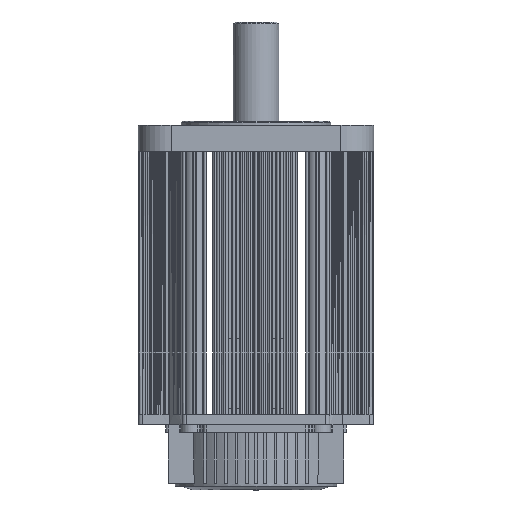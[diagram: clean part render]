
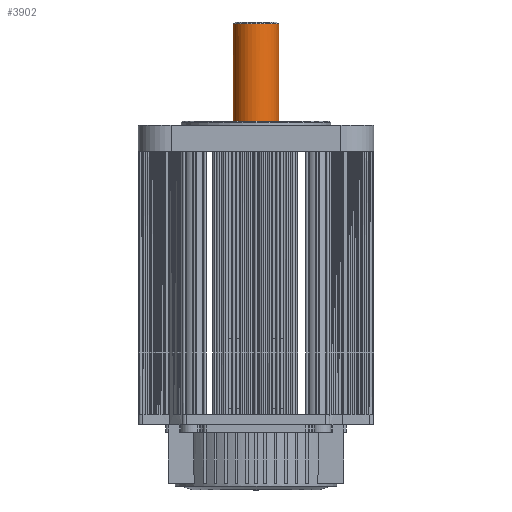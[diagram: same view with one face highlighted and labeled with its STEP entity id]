
A CAD part, front view. The second image highlights one B-rep face of the part: STEP entity #3902.
In plain terms, the highlighted cylindrical face has radius 17.5 mm (diameter 35 mm), a partial arc.
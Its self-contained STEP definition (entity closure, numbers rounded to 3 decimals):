
#700 = B_SPLINE_CURVE_WITH_KNOTS ( 'NONE', 3,
 ( #6227, #3755, #12391, #38685, #28085, #15554, #735, #9921, #9240, #29031, #32071, #22703, #25747, #35261, #31939, #3879, #7051, #13203 ),
 .UNSPECIFIED., .F., .F.,
 ( 4, 2, 2, 2, 2, 2, 2, 2, 4 ),
 ( 0.5, 0.563, 0.625, 0.688, 0.75, 0.813, 0.875, 0.938, 1. ),
 .UNSPECIFIED. ) ;
#735 = CARTESIAN_POINT ( 'NONE',  ( 15.187, -8.77, 23.2 ) ) ;
#1235 = CARTESIAN_POINT ( 'NONE',  ( 0., 0., 97.5 ) ) ;
#1984 = CARTESIAN_POINT ( 'NONE',  ( -4.537, -16.94, 23.2 ) ) ;
#2063 = VERTEX_POINT ( 'NONE', #2098 ) ;
#2098 = CARTESIAN_POINT ( 'NONE',  ( 17.5, 0., 23.2 ) ) ;
#2670 = CARTESIAN_POINT ( 'NONE',  ( -13.914, -10.675, 23.2 ) ) ;
#3436 = CARTESIAN_POINT ( 'NONE',  ( 17.5, 0., 97.5 ) ) ;
#3497 = VERTEX_POINT ( 'NONE', #14222 ) ;
#3755 = CARTESIAN_POINT ( 'NONE',  ( 17.5, -1.145, 23.2 ) ) ;
#3879 = CARTESIAN_POINT ( 'NONE',  ( 2.291, -17.387, 23.2 ) ) ;
#3902 = ADVANCED_FACE ( 'NONE', ( #29463 ), #38367, .F. ) ;
#3976 = VERTEX_POINT ( 'NONE', #30579 ) ;
#4383 = DIRECTION ( 'NONE',  ( 0., 0., 1. ) ) ;
#4723 = CARTESIAN_POINT ( 'NONE',  ( -17.5, 0., 23.2 ) ) ;
#5792 = LINE ( 'NONE', #11248, #13151 ) ;
#6090 = CARTESIAN_POINT ( 'NONE',  ( -16.94, -4.537, 23.2 ) ) ;
#6227 = CARTESIAN_POINT ( 'NONE',  ( 17.5, 0., 23.2 ) ) ;
#6554 = ORIENTED_EDGE ( 'NONE', *, *, #19488, .T. ) ;
#7051 = CARTESIAN_POINT ( 'NONE',  ( 1.145, -17.5, 23.2 ) ) ;
#7545 = EDGE_CURVE ( 'NONE', #3976, #36218, #5792, .T. ) ;
#8000 = CIRCLE ( 'NONE', #31345, 17.5 ) ;
#8440 = CARTESIAN_POINT ( 'NONE',  ( -5.639, -16.606, 23.2 ) ) ;
#8579 = CARTESIAN_POINT ( 'NONE',  ( -1.145, -17.5, 23.2 ) ) ;
#8718 = CARTESIAN_POINT ( 'NONE',  ( -8.77, -15.187, 23.2 ) ) ;
#9240 = CARTESIAN_POINT ( 'NONE',  ( 13.184, -11.564, 23.2 ) ) ;
#9921 = CARTESIAN_POINT ( 'NONE',  ( 13.914, -10.675, 23.2 ) ) ;
#11248 = CARTESIAN_POINT ( 'NONE',  ( -17.5, 0., 97.5 ) ) ;
#11986 = CARTESIAN_POINT ( 'NONE',  ( -13.184, -11.564, 23.2 ) ) ;
#12260 = CARTESIAN_POINT ( 'NONE',  ( -17.387, -2.291, 23.2 ) ) ;
#12391 = CARTESIAN_POINT ( 'NONE',  ( 17.387, -2.291, 23.2 ) ) ;
#13151 = VECTOR ( 'NONE', #30520, 1000. ) ;
#13203 = CARTESIAN_POINT ( 'NONE',  ( 0., -17.5, 23.2 ) ) ;
#14222 = CARTESIAN_POINT ( 'NONE',  ( 0., -17.5, 23.2 ) ) ;
#15138 = CARTESIAN_POINT ( 'NONE',  ( -17.5, -1.145, 23.2 ) ) ;
#15554 = CARTESIAN_POINT ( 'NONE',  ( 15.73, -7.755, 23.2 ) ) ;
#15808 = EDGE_CURVE ( 'NONE', #3976, #34680, #8000, .T. ) ;
#16064 = ORIENTED_EDGE ( 'NONE', *, *, #7545, .F. ) ;
#16817 = DIRECTION ( 'NONE',  ( 0., 0., -1. ) ) ;
#17664 = CARTESIAN_POINT ( 'NONE',  ( 0., -17.5, 23.2 ) ) ;
#18741 = CARTESIAN_POINT ( 'NONE',  ( -15.73, -7.755, 23.2 ) ) ;
#19488 = EDGE_CURVE ( 'NONE', #2063, #3497, #700, .T. ) ;
#20808 = CARTESIAN_POINT ( 'NONE',  ( 17.5, 0., 97.5 ) ) ;
#20912 = B_SPLINE_CURVE_WITH_KNOTS ( 'NONE', 3,
 ( #17664, #8579, #24114, #1984, #8440, #27541, #8718, #27959, #31402, #11986, #2670, #31272, #18741, #40755, #6090, #12260, #15138, #21743 ),
 .UNSPECIFIED., .F., .F.,
 ( 4, 2, 2, 2, 2, 2, 2, 2, 4 ),
 ( 0., 0.062, 0.125, 0.187, 0.25, 0.312, 0.375, 0.438, 0.5 ),
 .UNSPECIFIED. ) ;
#21743 = CARTESIAN_POINT ( 'NONE',  ( -17.5, 0., 23.2 ) ) ;
#22703 = CARTESIAN_POINT ( 'NONE',  ( 8.77, -15.187, 23.2 ) ) ;
#23626 = DIRECTION ( 'NONE',  ( 0., -1., 0. ) ) ;
#24114 = CARTESIAN_POINT ( 'NONE',  ( -2.291, -17.387, 23.2 ) ) ;
#25747 = CARTESIAN_POINT ( 'NONE',  ( 7.755, -15.73, 23.2 ) ) ;
#27126 = ORIENTED_EDGE ( 'NONE', *, *, #27702, .T. ) ;
#27318 = EDGE_CURVE ( 'NONE', #3497, #36218, #20912, .T. ) ;
#27511 = VECTOR ( 'NONE', #35342, 1000. ) ;
#27541 = CARTESIAN_POINT ( 'NONE',  ( -7.755, -15.73, 23.2 ) ) ;
#27702 = EDGE_CURVE ( 'NONE', #34680, #2063, #37867, .T. ) ;
#27959 = CARTESIAN_POINT ( 'NONE',  ( -10.675, -13.914, 23.2 ) ) ;
#28085 = CARTESIAN_POINT ( 'NONE',  ( 16.606, -5.639, 23.2 ) ) ;
#29031 = CARTESIAN_POINT ( 'NONE',  ( 11.564, -13.184, 23.2 ) ) ;
#29463 = FACE_OUTER_BOUND ( 'NONE', #39874, .T. ) ;
#30520 = DIRECTION ( 'NONE',  ( 0., 0., -1. ) ) ;
#30579 = CARTESIAN_POINT ( 'NONE',  ( -17.5, 0., 97.5 ) ) ;
#31272 = CARTESIAN_POINT ( 'NONE',  ( -15.187, -8.77, 23.2 ) ) ;
#31345 = AXIS2_PLACEMENT_3D ( 'NONE', #1235, #4383, #23626 ) ;
#31402 = CARTESIAN_POINT ( 'NONE',  ( -11.564, -13.184, 23.2 ) ) ;
#31939 = CARTESIAN_POINT ( 'NONE',  ( 4.537, -16.94, 23.2 ) ) ;
#32071 = CARTESIAN_POINT ( 'NONE',  ( 10.675, -13.914, 23.2 ) ) ;
#33118 = ORIENTED_EDGE ( 'NONE', *, *, #27318, .T. ) ;
#34680 = VERTEX_POINT ( 'NONE', #20808 ) ;
#35261 = CARTESIAN_POINT ( 'NONE',  ( 5.639, -16.606, 23.2 ) ) ;
#35342 = DIRECTION ( 'NONE',  ( 0., 0., -1. ) ) ;
#36218 = VERTEX_POINT ( 'NONE', #4723 ) ;
#36525 = DIRECTION ( 'NONE',  ( -1., 0., 0. ) ) ;
#36633 = AXIS2_PLACEMENT_3D ( 'NONE', #39678, #16817, #36525 ) ;
#37867 = LINE ( 'NONE', #3436, #27511 ) ;
#38367 = CYLINDRICAL_SURFACE ( 'NONE', #36633, 17.5 ) ;
#38685 = CARTESIAN_POINT ( 'NONE',  ( 16.94, -4.537, 23.2 ) ) ;
#39678 = CARTESIAN_POINT ( 'NONE',  ( 0., 0., 97.5 ) ) ;
#39874 = EDGE_LOOP ( 'NONE', ( #40667, #27126, #6554, #33118, #16064 ) ) ;
#40667 = ORIENTED_EDGE ( 'NONE', *, *, #15808, .T. ) ;
#40755 = CARTESIAN_POINT ( 'NONE',  ( -16.606, -5.639, 23.2 ) ) ;
